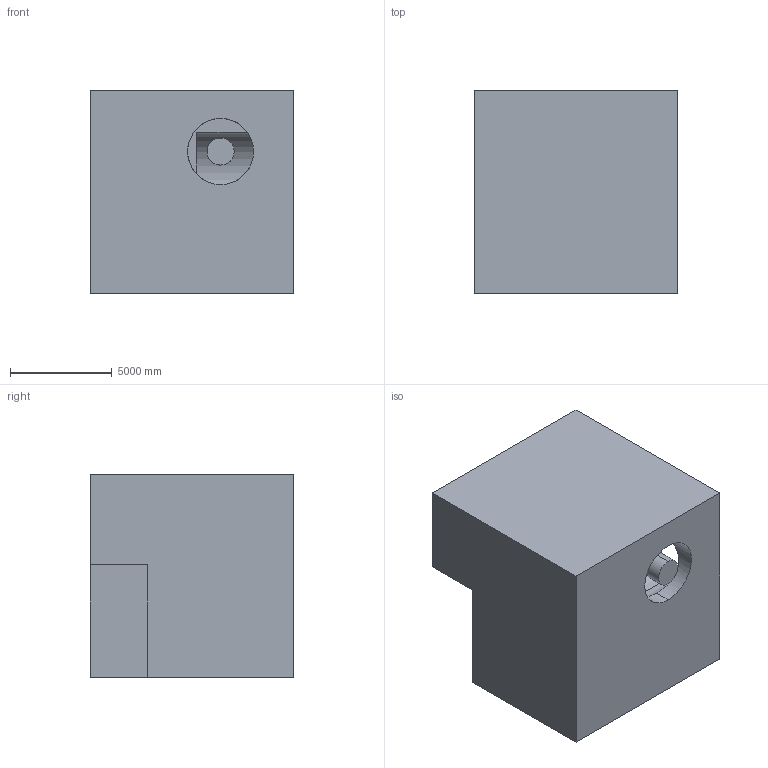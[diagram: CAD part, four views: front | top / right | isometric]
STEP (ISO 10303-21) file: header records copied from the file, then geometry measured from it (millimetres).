
FILE_DESCRIPTION (( 'STEP AP203' ), '1' );
FILE_NAME ('285.STEP', '2022-07-28T14:12:36', ( 'user' ), ( '' ), 'SwSTEP 2.0', 'SolidWorks 2021', '' );
FILE_SCHEMA (( 'CONFIG_CONTROL_DESIGN' ));
Length unit declared in the file: centimetre
Products named in the file (1): 285
Bounding box: 10000 x 10000 x 10000 mm (x, y, z)
Volume: 865523345944.8 mm3; surface area: 668062020.4 mm2
Topology: 2 solids, 2 shells, 19 faces, 45 edges, 30 vertices
Faces by surface type: plane 12, cylinder 7
Entity records: 1035 total; most frequent: CARTESIAN_POINT 509, DIRECTION 92, ORIENTED_EDGE 90, EDGE_CURVE 45, AXIS2_PLACEMENT_3D 31, LINE 30, VERTEX_POINT 30, VECTOR 30
